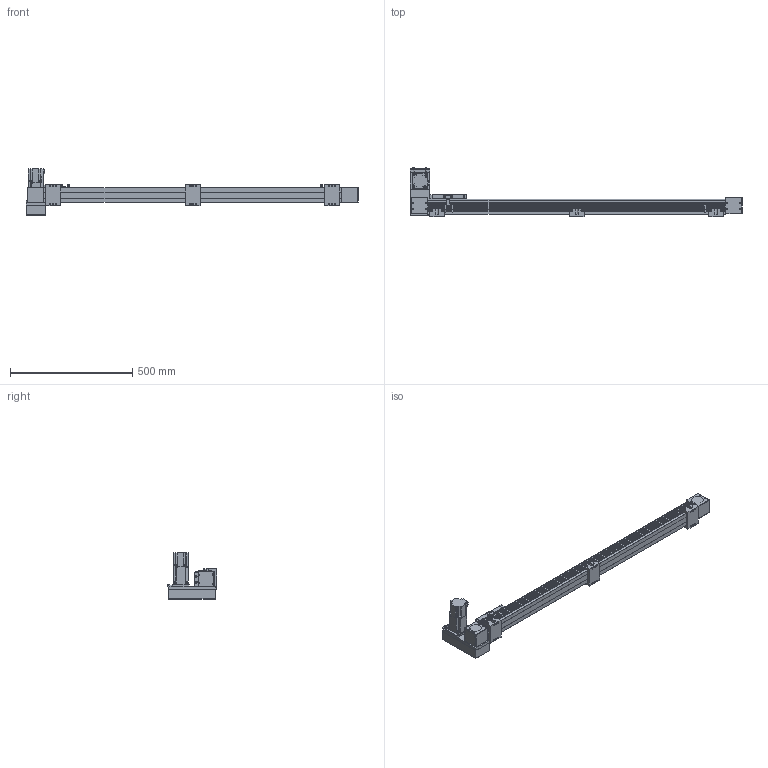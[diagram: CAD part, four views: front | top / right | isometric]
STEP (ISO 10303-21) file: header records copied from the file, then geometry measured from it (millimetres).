
FILE_DESCRIPTION(/* description */ ('STEP AP214'),/* implementation_level */ '2;1');
FILE_NAME(/* name */ 'SK60-P13-S1050-LU-T40-C1-N(0)',/* time_stamp */ '2023-04-06T04:47:41+02:00',/* author */ ('License CC BY-ND 4.0'),/* organization */ ('CADENAS'),/* preprocessor_version */ 'ST-DEVELOPER v19.3',/* originating_system */ 'PARTsolutions',/* authorisation */ ' ');
FILE_SCHEMA (('AUTOMOTIVE_DESIGN {1 0 10303 214 3 1 1}'));
Length unit declared in the file: millimetre
Products named in the file (10): SK60-P13-S1050-LU-T40-C1-N(0); PSC140-sensor; SK60-S450_seat; SK60-S450-BL-C1_slider; SK60_body3; SK60_body6; SK60-BL_body2; T40-p1; SK60-LU_fb; SK60-S1050-LU-C1_body
Assembly tree (17 placements, depth 2):
  SK60-P13-S1050-LU-T40-C1-N(0)
    PSC140-sensor  x3
    SK60-S450_seat  x3
    SK60-S450-BL-C1_slider
    SK60_body3  x3
    SK60_body6  x2
    SK60-BL_body2  x2
    T40-p1
    SK60-LU_fb
    SK60-S1050-LU-C1_body
Bounding box: 1355.5 x 201 x 189.7 mm (x, y, z)
Volume: 5830485.9 mm3; surface area: 734690.4 mm2
Topology: 17 solids, 17 shells, 854 faces, 2146 edges, 1413 vertices
Faces by surface type: plane 548, cylinder 278, cone 26, torus 2
Full cylindrical faces by diameter (mm): 2.8 x3, 3.3 x4, 4 x2, 4.5 x30, 4.6 x3, 4.917 x20, 5 x6, 5.478 x4, 5.5 x23, 6.5 x6, 7 x2, 8 x4, 8.5 x4, 9.988 x4, 10 x12, 14 x1, 47 x3, 50 x2
Entity records: 18663 total; most frequent: DIRECTION 3186, CARTESIAN_POINT 3151, ORIENTED_EDGE 2940, EDGE_CURVE 1470, AXIS2_PLACEMENT_3D 1069, LINE 1048, VECTOR 1048, VERTEX_POINT 1034
